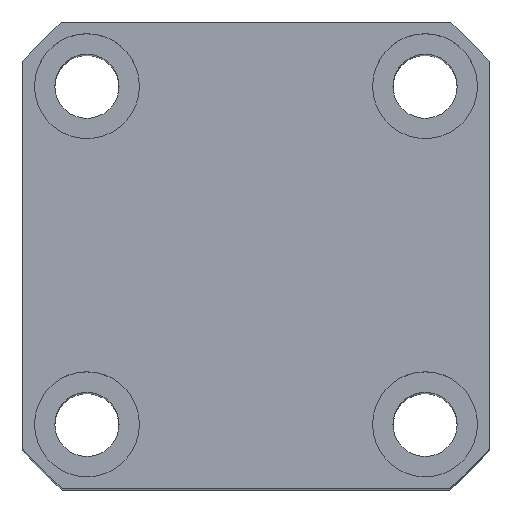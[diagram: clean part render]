
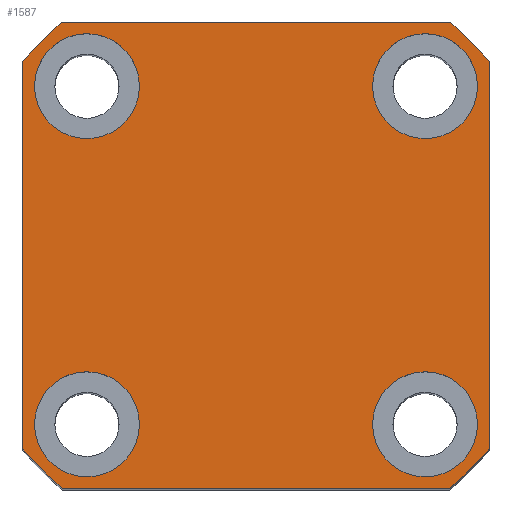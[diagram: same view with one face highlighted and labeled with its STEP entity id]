
A CAD part, top view. The second image highlights one B-rep face of the part: STEP entity #1587.
In plain terms, the highlighted planar face has unit normal (0, 0, 1).
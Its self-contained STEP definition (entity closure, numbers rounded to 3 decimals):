
#35 = DIRECTION ( 'NONE',  ( 1., 0., 0. ) ) ;
#124 = CARTESIAN_POINT ( 'NONE',  ( 0., 0., 80. ) ) ;
#303 = VERTEX_POINT ( 'NONE', #12016 ) ;
#307 = AXIS2_PLACEMENT_3D ( 'NONE', #4405, #7937, #11357 ) ;
#319 = AXIS2_PLACEMENT_3D ( 'NONE', #10532, #3589, #5851 ) ;
#367 = CIRCLE ( 'NONE', #7194, 9. ) ;
#444 = CARTESIAN_POINT ( 'NONE',  ( 29., -29., 80. ) ) ;
#766 = CARTESIAN_POINT ( 'NONE',  ( 20., 29., 80. ) ) ;
#774 = AXIS2_PLACEMENT_3D ( 'NONE', #5121, #1887, #783 ) ;
#783 = DIRECTION ( 'NONE',  ( 1., 0., 0. ) ) ;
#964 = DIRECTION ( 'NONE',  ( 0., 1., 0. ) ) ;
#1080 = VECTOR ( 'NONE', #4612, 1000. ) ;
#1167 = EDGE_CURVE ( 'NONE', #9507, #4372, #6307, .T. ) ;
#1260 = VECTOR ( 'NONE', #7224, 1000. ) ;
#1272 = DIRECTION ( 'NONE',  ( 1., 0., 0. ) ) ;
#1277 = ORIENTED_EDGE ( 'NONE', *, *, #9373, .T. ) ;
#1587 = ADVANCED_FACE ( 'NONE', ( #14496, #5805, #3300, #1869, #6159 ), #3627, .T. ) ;
#1610 = VECTOR ( 'NONE', #4403, 1000. ) ;
#1631 = ORIENTED_EDGE ( 'NONE', *, *, #1167, .T. ) ;
#1742 = ORIENTED_EDGE ( 'NONE', *, *, #2608, .F. ) ;
#1869 = FACE_BOUND ( 'NONE', #14759, .T. ) ;
#1887 = DIRECTION ( 'NONE',  ( 0., 0., 1. ) ) ;
#1998 = CARTESIAN_POINT ( 'NONE',  ( 29., 29., 80. ) ) ;
#2002 = VERTEX_POINT ( 'NONE', #766 ) ;
#2009 = CARTESIAN_POINT ( 'NONE',  ( -38., 29., 80. ) ) ;
#2232 = VERTEX_POINT ( 'NONE', #14067 ) ;
#2311 = DIRECTION ( 'NONE',  ( 1., 0., 0. ) ) ;
#2533 = DIRECTION ( 'NONE',  ( 0., 0., 1. ) ) ;
#2608 = EDGE_CURVE ( 'NONE', #10986, #303, #12906, .T. ) ;
#2938 = EDGE_CURVE ( 'NONE', #2002, #11262, #11838, .T. ) ;
#2949 = CARTESIAN_POINT ( 'NONE',  ( 38., -29., 80. ) ) ;
#3255 = ORIENTED_EDGE ( 'NONE', *, *, #8029, .T. ) ;
#3300 = FACE_BOUND ( 'NONE', #12585, .T. ) ;
#3308 = CARTESIAN_POINT ( 'NONE',  ( -33.226, -40., 80. ) ) ;
#3577 = CIRCLE ( 'NONE', #307, 9. ) ;
#3589 = DIRECTION ( 'NONE',  ( 0., 0., 1. ) ) ;
#3627 = PLANE ( 'NONE',  #10175 ) ;
#3675 = ORIENTED_EDGE ( 'NONE', *, *, #7640, .F. ) ;
#3723 = DIRECTION ( 'NONE',  ( 0., 0., 1. ) ) ;
#3764 = ORIENTED_EDGE ( 'NONE', *, *, #8017, .F. ) ;
#3788 = VECTOR ( 'NONE', #964, 1000. ) ;
#3791 = VERTEX_POINT ( 'NONE', #2949 ) ;
#3916 = AXIS2_PLACEMENT_3D ( 'NONE', #5828, #7019, #1272 ) ;
#4008 = CARTESIAN_POINT ( 'NONE',  ( 33.226, -40., 80. ) ) ;
#4020 = ORIENTED_EDGE ( 'NONE', *, *, #9629, .T. ) ;
#4146 = CARTESIAN_POINT ( 'NONE',  ( -40., 33.226, 80. ) ) ;
#4148 = CARTESIAN_POINT ( 'NONE',  ( 20., -29., 80. ) ) ;
#4372 = VERTEX_POINT ( 'NONE', #8753 ) ;
#4403 = DIRECTION ( 'NONE',  ( 0., -1., 0. ) ) ;
#4405 = CARTESIAN_POINT ( 'NONE',  ( -29., -29., 80. ) ) ;
#4486 = ORIENTED_EDGE ( 'NONE', *, *, #6724, .T. ) ;
#4612 = DIRECTION ( 'NONE',  ( 1., 0., 0. ) ) ;
#4777 = CARTESIAN_POINT ( 'NONE',  ( -29., 29., 80. ) ) ;
#5121 = CARTESIAN_POINT ( 'NONE',  ( 0., 0., 80. ) ) ;
#5183 = DIRECTION ( 'NONE',  ( 1., 0., 0. ) ) ;
#5363 = AXIS2_PLACEMENT_3D ( 'NONE', #10563, #3723, #10610 ) ;
#5462 = VERTEX_POINT ( 'NONE', #2009 ) ;
#5805 = FACE_BOUND ( 'NONE', #7029, .T. ) ;
#5828 = CARTESIAN_POINT ( 'NONE',  ( 0., 0., 80. ) ) ;
#5851 = DIRECTION ( 'NONE',  ( 1., 0., 0. ) ) ;
#5918 = CIRCLE ( 'NONE', #6519, 9. ) ;
#5998 = CARTESIAN_POINT ( 'NONE',  ( -20., 29., 80. ) ) ;
#6011 = CIRCLE ( 'NONE', #9601, 9. ) ;
#6159 = FACE_OUTER_BOUND ( 'NONE', #8938, .T. ) ;
#6307 = CIRCLE ( 'NONE', #14040, 52. ) ;
#6331 = ORIENTED_EDGE ( 'NONE', *, *, #14358, .F. ) ;
#6355 = CARTESIAN_POINT ( 'NONE',  ( 40., 33.226, 80. ) ) ;
#6500 = ORIENTED_EDGE ( 'NONE', *, *, #2938, .F. ) ;
#6519 = AXIS2_PLACEMENT_3D ( 'NONE', #1998, #11130, #12266 ) ;
#6724 = EDGE_CURVE ( 'NONE', #14102, #9507, #7168, .T. ) ;
#6750 = DIRECTION ( 'NONE',  ( 0., 0., 1. ) ) ;
#6791 = CIRCLE ( 'NONE', #5363, 52. ) ;
#6938 = DIRECTION ( 'NONE',  ( 1., 0., 0. ) ) ;
#7019 = DIRECTION ( 'NONE',  ( 0., 0., 1. ) ) ;
#7029 = EDGE_LOOP ( 'NONE', ( #1742, #10114 ) ) ;
#7142 = VERTEX_POINT ( 'NONE', #4146 ) ;
#7168 = LINE ( 'NONE', #9165, #1080 ) ;
#7194 = AXIS2_PLACEMENT_3D ( 'NONE', #444, #11811, #8438 ) ;
#7224 = DIRECTION ( 'NONE',  ( -1., 0., 0. ) ) ;
#7340 = CARTESIAN_POINT ( 'NONE',  ( 38., 29., 80. ) ) ;
#7359 = ORIENTED_EDGE ( 'NONE', *, *, #9407, .T. ) ;
#7375 = VERTEX_POINT ( 'NONE', #6355 ) ;
#7640 = EDGE_CURVE ( 'NONE', #3791, #14076, #6011, .T. ) ;
#7778 = CARTESIAN_POINT ( 'NONE',  ( -29., 29., 80. ) ) ;
#7796 = CIRCLE ( 'NONE', #13157, 9. ) ;
#7937 = DIRECTION ( 'NONE',  ( 0., 0., 1. ) ) ;
#8017 = EDGE_CURVE ( 'NONE', #5462, #10957, #7796, .T. ) ;
#8029 = EDGE_CURVE ( 'NONE', #8135, #7142, #12756, .T. ) ;
#8135 = VERTEX_POINT ( 'NONE', #10745 ) ;
#8183 = AXIS2_PLACEMENT_3D ( 'NONE', #9466, #11745, #8321 ) ;
#8321 = DIRECTION ( 'NONE',  ( 1., 0., 0. ) ) ;
#8438 = DIRECTION ( 'NONE',  ( 1., 0., 0. ) ) ;
#8458 = LINE ( 'NONE', #9809, #3788 ) ;
#8550 = EDGE_CURVE ( 'NONE', #11262, #2002, #5918, .T. ) ;
#8753 = CARTESIAN_POINT ( 'NONE',  ( 40., -33.226, 80. ) ) ;
#8840 = EDGE_LOOP ( 'NONE', ( #3675, #9925 ) ) ;
#8892 = EDGE_CURVE ( 'NONE', #14076, #3791, #367, .T. ) ;
#8938 = EDGE_LOOP ( 'NONE', ( #3255, #4020, #10128, #4486, #1631, #12192, #7359, #1277 ) ) ;
#8965 = EDGE_CURVE ( 'NONE', #2232, #14102, #12850, .T. ) ;
#9165 = CARTESIAN_POINT ( 'NONE',  ( -33.226, -40., 80. ) ) ;
#9180 = DIRECTION ( 'NONE',  ( 0., 0., 1. ) ) ;
#9373 = EDGE_CURVE ( 'NONE', #14000, #8135, #13539, .T. ) ;
#9407 = EDGE_CURVE ( 'NONE', #7375, #14000, #6791, .T. ) ;
#9466 = CARTESIAN_POINT ( 'NONE',  ( -29., -29., 80. ) ) ;
#9507 = VERTEX_POINT ( 'NONE', #4008 ) ;
#9601 = AXIS2_PLACEMENT_3D ( 'NONE', #12502, #6750, #35 ) ;
#9629 = EDGE_CURVE ( 'NONE', #7142, #2232, #13174, .T. ) ;
#9648 = DIRECTION ( 'NONE',  ( 0., 0., 1. ) ) ;
#9707 = ORIENTED_EDGE ( 'NONE', *, *, #8550, .F. ) ;
#9768 = CARTESIAN_POINT ( 'NONE',  ( -40., 33.226, 80. ) ) ;
#9795 = AXIS2_PLACEMENT_3D ( 'NONE', #7778, #2533, #11519 ) ;
#9802 = CARTESIAN_POINT ( 'NONE',  ( 0., 0., 80. ) ) ;
#9809 = CARTESIAN_POINT ( 'NONE',  ( 40., 33.226, 80. ) ) ;
#9924 = EDGE_CURVE ( 'NONE', #303, #10986, #3577, .T. ) ;
#9925 = ORIENTED_EDGE ( 'NONE', *, *, #8892, .F. ) ;
#10114 = ORIENTED_EDGE ( 'NONE', *, *, #9924, .F. ) ;
#10128 = ORIENTED_EDGE ( 'NONE', *, *, #8965, .T. ) ;
#10175 = AXIS2_PLACEMENT_3D ( 'NONE', #124, #12599, #6938 ) ;
#10532 = CARTESIAN_POINT ( 'NONE',  ( 29., 29., 80. ) ) ;
#10563 = CARTESIAN_POINT ( 'NONE',  ( 0., 0., 80. ) ) ;
#10610 = DIRECTION ( 'NONE',  ( 1., 0., 0. ) ) ;
#10745 = CARTESIAN_POINT ( 'NONE',  ( -33.226, 40., 80. ) ) ;
#10957 = VERTEX_POINT ( 'NONE', #5998 ) ;
#10986 = VERTEX_POINT ( 'NONE', #13882 ) ;
#11130 = DIRECTION ( 'NONE',  ( 0., 0., 1. ) ) ;
#11262 = VERTEX_POINT ( 'NONE', #7340 ) ;
#11357 = DIRECTION ( 'NONE',  ( 1., 0., 0. ) ) ;
#11519 = DIRECTION ( 'NONE',  ( 1., 0., 0. ) ) ;
#11745 = DIRECTION ( 'NONE',  ( 0., 0., 1. ) ) ;
#11811 = DIRECTION ( 'NONE',  ( 0., 0., 1. ) ) ;
#11815 = CIRCLE ( 'NONE', #9795, 9. ) ;
#11838 = CIRCLE ( 'NONE', #319, 9. ) ;
#12016 = CARTESIAN_POINT ( 'NONE',  ( -38., -29., 80. ) ) ;
#12192 = ORIENTED_EDGE ( 'NONE', *, *, #14077, .T. ) ;
#12266 = DIRECTION ( 'NONE',  ( 1., 0., 0. ) ) ;
#12502 = CARTESIAN_POINT ( 'NONE',  ( 29., -29., 80. ) ) ;
#12585 = EDGE_LOOP ( 'NONE', ( #6331, #3764 ) ) ;
#12599 = DIRECTION ( 'NONE',  ( 0., 0., 1. ) ) ;
#12742 = CARTESIAN_POINT ( 'NONE',  ( -33.226, 40., 80. ) ) ;
#12756 = CIRCLE ( 'NONE', #3916, 52. ) ;
#12850 = CIRCLE ( 'NONE', #774, 52. ) ;
#12906 = CIRCLE ( 'NONE', #8183, 9. ) ;
#13157 = AXIS2_PLACEMENT_3D ( 'NONE', #4777, #9180, #2311 ) ;
#13174 = LINE ( 'NONE', #9768, #1610 ) ;
#13539 = LINE ( 'NONE', #12742, #1260 ) ;
#13882 = CARTESIAN_POINT ( 'NONE',  ( -20., -29., 80. ) ) ;
#14000 = VERTEX_POINT ( 'NONE', #14439 ) ;
#14040 = AXIS2_PLACEMENT_3D ( 'NONE', #9802, #9648, #5183 ) ;
#14067 = CARTESIAN_POINT ( 'NONE',  ( -40., -33.226, 80. ) ) ;
#14076 = VERTEX_POINT ( 'NONE', #4148 ) ;
#14077 = EDGE_CURVE ( 'NONE', #4372, #7375, #8458, .T. ) ;
#14102 = VERTEX_POINT ( 'NONE', #3308 ) ;
#14358 = EDGE_CURVE ( 'NONE', #10957, #5462, #11815, .T. ) ;
#14439 = CARTESIAN_POINT ( 'NONE',  ( 33.226, 40., 80. ) ) ;
#14496 = FACE_BOUND ( 'NONE', #8840, .T. ) ;
#14759 = EDGE_LOOP ( 'NONE', ( #9707, #6500 ) ) ;
